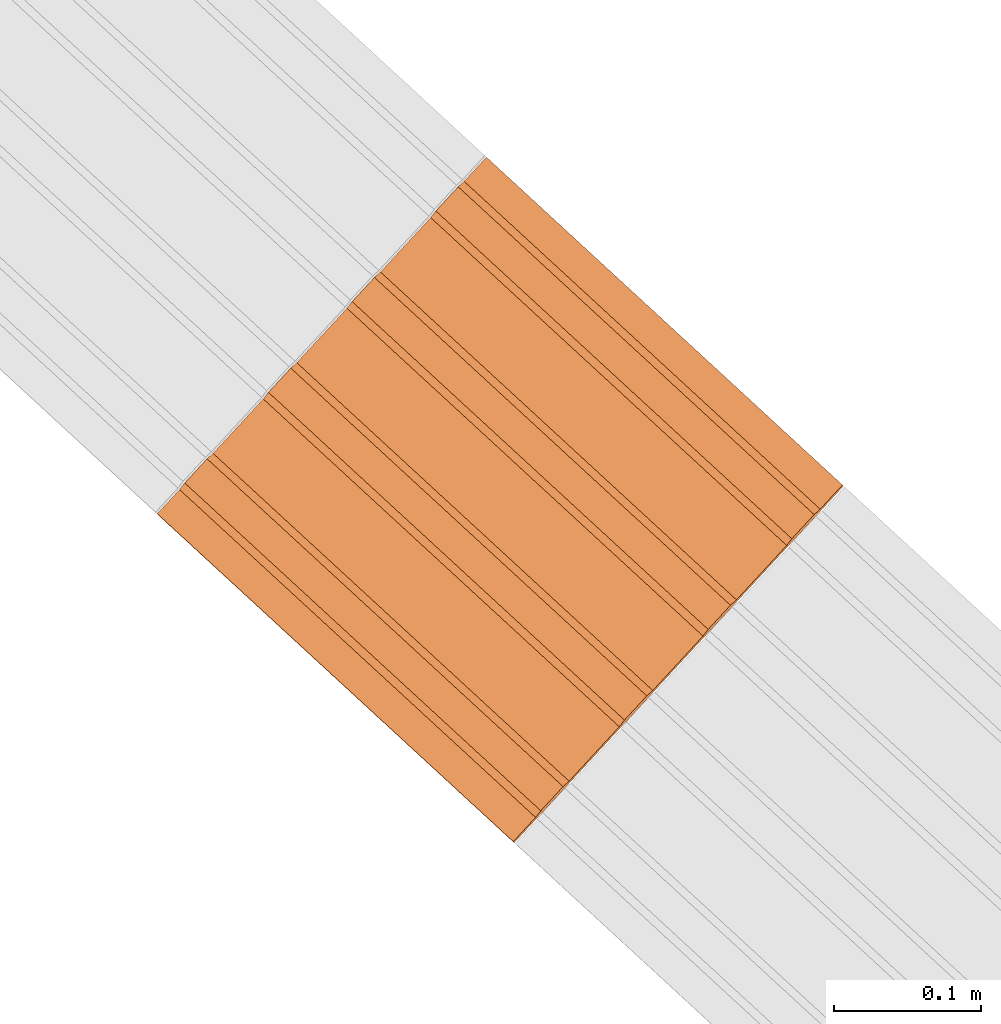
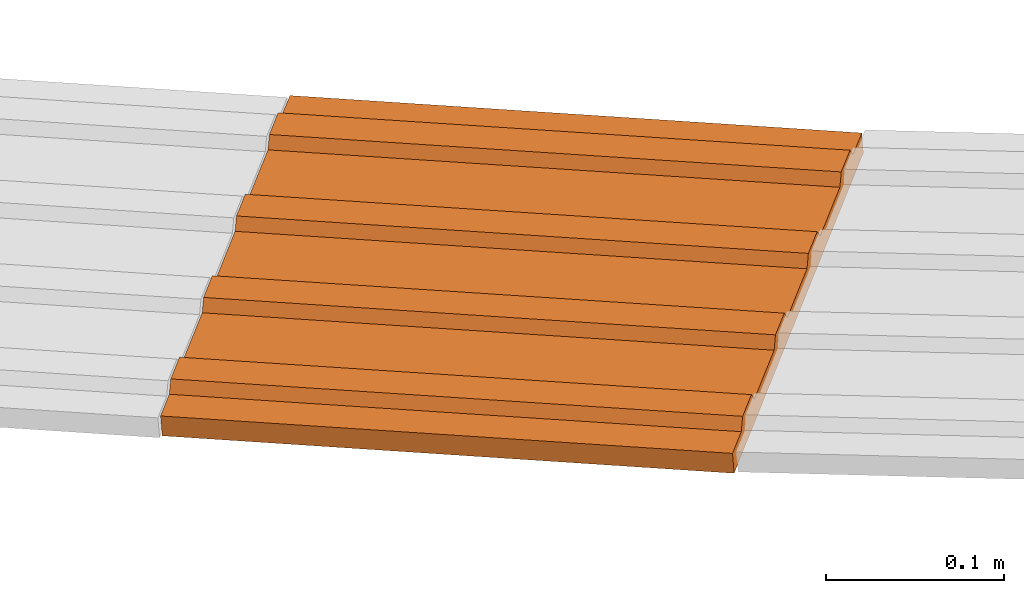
# One storey, part 167 of 237: 1 proxy.
"""IFC2X3 building model written with IfcOpenShell, lengths in millimetres."""

from ifc_helpers import new_model, entity, si_unit, converted_unit, derived_unit, money_unit, direction, frame, origin_with_axes, place, context, subcontext, project, spatial, open_shell, surface_model, source, transform, mapped, type_object, element, save


model = new_model("IFC2X3")

# Units and contexts
model_context = context("Model", 3, precision=0.01, world=origin_with_axes(), true_north=direction((0.0, 1.0)))
body_context = subcontext(model_context, "Body", "Model", "MODEL_VIEW")
ifc_project = project(units=[si_unit("LENGTHUNIT", "METRE", prefix="MILLI"), si_unit("AREAUNIT", "SQUARE_METRE"), si_unit("VOLUMEUNIT", "CUBIC_METRE"), converted_unit("PLANEANGLEUNIT", "DEGREE", entity("IfcPlaneAngleMeasure", 0.0174532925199), si_unit("PLANEANGLEUNIT", "RADIAN"), dimensions=[0, 0, 0, 0, 0, 0, 0]), money_unit("USD"), converted_unit("TIMEUNIT", "Year", entity("IfcTimeMeasure", 31556926.0), si_unit("TIMEUNIT", "SECOND"), dimensions=[0, 0, 1, 0, 0, 0, 0]), si_unit("MASSUNIT", "GRAM", prefix="KILO"), si_unit("THERMODYNAMICTEMPERATUREUNIT", "DEGREE_CELSIUS"), si_unit("LUMINOUSINTENSITYUNIT", "LUMEN"), si_unit("ENERGYUNIT", "JOULE", prefix="MEGA"), derived_unit("THERMALCONDUCTANCEUNIT", [(si_unit("POWERUNIT", "WATT"), 1), (si_unit("LENGTHUNIT", "METRE"), -1), (si_unit("THERMODYNAMICTEMPERATUREUNIT", "KELVIN"), -1)]), derived_unit("SPECIFICHEATCAPACITYUNIT", [(si_unit("ENERGYUNIT", "JOULE"), 1), (si_unit("MASSUNIT", "GRAM", prefix="KILO"), -1), (si_unit("THERMODYNAMICTEMPERATUREUNIT", "KELVIN"), -1)]), derived_unit("MASSDENSITYUNIT", [(si_unit("MASSUNIT", "GRAM", prefix="KILO"), 1), (si_unit("VOLUMEUNIT", "CUBIC_METRE"), -1)])], contexts=[model_context])

# Site, building, storey
site_placement = place(None, origin_with_axes())
site = spatial("IfcSite", under=ifc_project, at=site_placement, Name="Local", CompositionType="ELEMENT")
building_placement = place(site_placement, origin_with_axes())
building = spatial("IfcBuilding", under=site, at=building_placement, Name="Construção", CompositionType="ELEMENT")
storey_placement = place(building_placement, origin_with_axes())
storey = spatial("IfcBuildingStorey", under=building, at=storey_placement, Name="Pavimento Térreo", CompositionType="ELEMENT", Elevation=0.0)

# Proxy
building_element_proxy_type = type_object("IfcBuildingElementProxyType", Name="Piso Direcional 27", PredefinedType="NOTDEFINED")
shared_shape = source(origin_with_axes(), body_context, "Body", "SurfaceModel", [
    surface_model("IfcShellBasedSurfaceModel", [(0.240167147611, -47.3213350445, 3.1941207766), (329.311261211, -47.3213350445, -21.5488590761), (329.818362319, -41.8453159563, -14.8046303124), (0.747268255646, -41.8453159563, 9.93834954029)], [open_shell([[[0, 1, 2, 3]]])]),
    surface_model("IfcShellBasedSurfaceModel", [(328.172634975, -153.343637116, -36.6921030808), (328.604459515, 176.606102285, -30.9490206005), (329.604023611, 176.373403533, -17.6552438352), (329.574747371, 154.003929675, -18.0446053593), (330.067210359, 148.295211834, -11.4950573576), (330.037934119, 125.925737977, -11.8844188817), (329.530833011, 120.449718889, -18.6286476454), (329.464961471, 70.1184027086, -19.5047110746), (329.957424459, 64.4096848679, -12.955163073), (329.928148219, 42.0402110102, -13.3445245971), (329.421047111, 36.564191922, -20.0887533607), (329.355175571, -13.7671242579, -20.9648167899), (329.847638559, -19.4758420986, -14.4152687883), (329.818362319, -41.8453159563, -14.8046303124), (329.311261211, -47.3213350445, -21.5488590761), (329.245389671, -97.6526512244, -22.4249225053), (329.737852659, -103.361369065, -15.8753745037), (329.708576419, -125.730842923, -16.2647360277), (329.201475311, -131.206862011, -23.0089647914), (329.172199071, -153.576335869, -23.3983263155)], [open_shell([[[0, 1, 2, 3, 4, 5, 6, 7, 8, 9, 10, 11, 12, 13, 14, 15, 16, 17, 18, 19]]])]),
    surface_model("IfcShellBasedSurfaceModel", [(0.776544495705, -19.4758420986, 10.3277110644), (329.847638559, -19.4758420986, -14.4152687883), (329.355175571, -13.7671242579, -20.9648167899), (0.284081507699, -13.7671242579, 3.77816306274)], [open_shell([[[0, 1, 2, 3]]])]),
    surface_model("IfcShellBasedSurfaceModel", [(0.666758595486, -103.361369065, 8.86760534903), (329.737852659, -103.361369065, -15.8753745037), (329.245389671, -97.6526512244, -22.4249225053), (0.17429560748, -97.6526512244, 2.3180573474)], [open_shell([[[0, 1, 2, 3]]])]),
    surface_model("IfcShellBasedSurfaceModel", [(0.886330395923, 64.4096848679, 11.7878167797), (329.957424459, 64.4096848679, -12.955163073), (329.464961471, 70.1184027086, -19.5047110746), (0.393867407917, 70.1184027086, 5.23826877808)], [open_shell([[[0, 1, 2, 3]]])]),
    surface_model("IfcShellBasedSurfaceModel", [(0.34995304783, 36.564191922, 4.65422649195), (329.421047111, 36.564191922, -20.0887533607), (329.928148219, 42.0402110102, -13.3445245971), (0.857054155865, 42.0402110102, 11.3984552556)], [open_shell([[[0, 1, 2, 3]]])]),
    surface_model("IfcShellBasedSurfaceModel", [(0.130381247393, -131.206862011, 1.73401506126), (329.201475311, -131.206862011, -23.0089647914), (329.708576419, -125.730842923, -16.2647360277), (0.637482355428, -125.730842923, 8.47824382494)], [open_shell([[[0, 1, 2, 3]]])]),
    surface_model("IfcShellBasedSurfaceModel", [(0.532929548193, 176.373403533, 7.08773601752), (0.503653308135, 154.003929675, 6.69837449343), (329.574747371, 154.003929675, -18.0446053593), (329.604023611, 176.373403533, -17.6552438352)], [open_shell([[[0, 1, 2, 3]]])]),
    surface_model("IfcShellBasedSurfaceModel", [(0.459738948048, 120.449718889, 6.11433220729), (329.530833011, 120.449718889, -18.6286476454), (330.037934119, 125.925737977, -11.8844188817), (0.966840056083, 125.925737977, 12.858560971)], [open_shell([[[0, 1, 2, 3]]])]),
    surface_model("IfcShellBasedSurfaceModel", [(0.996116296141, 148.295211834, 13.2479224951), (330.067210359, 148.295211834, -11.4950573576), (329.574747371, 154.003929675, -18.0446053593), (0.503653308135, 154.003929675, 6.69837449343)], [open_shell([[[0, 1, 2, 3]]])]),
    surface_model("IfcShellBasedSurfaceModel", [(0.34995304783, 36.564191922, 4.65422649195), (0.284081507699, -13.7671242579, 3.77816306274), (329.355175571, -13.7671242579, -20.9648167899), (329.421047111, 36.564191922, -20.0887533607)], [open_shell([[[0, 1, 2, 3]]])]),
    surface_model("IfcShellBasedSurfaceModel", [(0.459738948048, 120.449718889, 6.11433220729), (0.393867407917, 70.1184027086, 5.23826877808), (329.464961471, 70.1184027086, -19.5047110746), (329.530833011, 120.449718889, -18.6286476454)], [open_shell([[[0, 1, 2, 3]]])]),
    surface_model("IfcShellBasedSurfaceModel", [(0.996116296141, 148.295211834, 13.2479224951), (0.966840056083, 125.925737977, 12.858560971), (330.037934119, 125.925737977, -11.8844188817), (330.067210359, 148.295211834, -11.4950573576)], [open_shell([[[0, 1, 2, 3]]])]),
    surface_model("IfcShellBasedSurfaceModel", [(0.459738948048, 120.449718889, 6.11433220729), (0.966840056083, 125.925737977, 12.858560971), (0.996116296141, 148.295211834, 13.2479224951), (0.503653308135, 154.003929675, 6.69837449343), (0.532929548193, 176.373403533, 7.08773601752), (-0.466634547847, 176.606102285, -6.2060407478), (-0.898459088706, -153.343637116, -11.9491232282), (0.101105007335, -153.576335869, 1.34465353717), (0.130381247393, -131.206862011, 1.73401506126), (0.637482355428, -125.730842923, 8.47824382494), (0.666758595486, -103.361369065, 8.86760534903), (0.17429560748, -97.6526512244, 2.3180573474), (0.240167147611, -47.3213350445, 3.1941207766), (0.747268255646, -41.8453159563, 9.93834954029), (0.776544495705, -19.4758420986, 10.3277110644), (0.284081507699, -13.7671242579, 3.77816306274), (0.34995304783, 36.564191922, 4.65422649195), (0.857054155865, 42.0402110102, 11.3984552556), (0.886330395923, 64.4096848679, 11.7878167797), (0.393867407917, 70.1184027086, 5.23826877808)], [open_shell([[[0, 1, 2, 3, 4, 5, 6, 7, 8, 9, 10, 11, 12, 13, 14, 15, 16, 17, 18, 19]]])]),
    surface_model("IfcShellBasedSurfaceModel", [(329.818362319, -41.8453159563, -14.8046303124), (329.847638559, -19.4758420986, -14.4152687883), (0.776544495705, -19.4758420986, 10.3277110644), (0.747268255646, -41.8453159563, 9.93834954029)], [open_shell([[[0, 1, 2, 3]]])]),
    surface_model("IfcShellBasedSurfaceModel", [(0.240167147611, -47.3213350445, 3.1941207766), (0.17429560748, -97.6526512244, 2.3180573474), (329.245389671, -97.6526512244, -22.4249225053), (329.311261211, -47.3213350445, -21.5488590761)], [open_shell([[[0, 1, 2, 3]]])]),
    surface_model("IfcShellBasedSurfaceModel", [(329.928148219, 42.0402110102, -13.3445245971), (329.957424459, 64.4096848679, -12.955163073), (0.886330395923, 64.4096848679, 11.7878167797), (0.857054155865, 42.0402110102, 11.3984552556)], [open_shell([[[0, 1, 2, 3]]])]),
    surface_model("IfcShellBasedSurfaceModel", [(329.708576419, -125.730842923, -16.2647360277), (329.737852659, -103.361369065, -15.8753745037), (0.666758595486, -103.361369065, 8.86760534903), (0.637482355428, -125.730842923, 8.47824382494)], [open_shell([[[0, 1, 2, 3]]])]),
    surface_model("IfcShellBasedSurfaceModel", [(328.604459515, 176.606102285, -30.9490206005), (-0.466634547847, 176.606102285, -6.2060407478), (0.532929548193, 176.373403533, 7.08773601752), (329.604023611, 176.373403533, -17.6552438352)], [open_shell([[[0, 1, 2, 3]]])]),
    surface_model("IfcShellBasedSurfaceModel", [(328.172634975, -153.343637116, -36.6921030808), (-0.898459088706, -153.343637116, -11.9491232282), (-0.466634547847, 176.606102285, -6.2060407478), (328.604459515, 176.606102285, -30.9490206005)], [open_shell([[[0, 1, 2, 3]]])]),
    surface_model("IfcShellBasedSurfaceModel", [(329.172199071, -153.576335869, -23.3983263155), (329.201475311, -131.206862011, -23.0089647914), (0.130381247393, -131.206862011, 1.73401506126), (0.101105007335, -153.576335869, 1.34465353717)], [open_shell([[[0, 1, 2, 3]]])]),
    surface_model("IfcShellBasedSurfaceModel", [(-0.898459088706, -153.343637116, -11.9491232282), (328.172634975, -153.343637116, -36.6921030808), (329.172199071, -153.576335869, -23.3983263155), (0.101105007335, -153.576335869, 1.34465353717)], [open_shell([[[0, 1, 2, 3]]])]),
])
proxy_placement = place(storey_placement, frame((41114.3682225, 25962.2930456, -1699.5679852), z_axis=(0.0, 0.0, 1.0), x_axis=(-0.735681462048, 0.677327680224, 0.0)))
element("IfcBuildingElementProxy", 1, at=proxy_placement, inside=storey, type_object=building_element_proxy_type, Name="Objeto-0055", context=body_context, shape_type="MappedRepresentation", body=[
    mapped(shared_shape, transform((0.0, 0.0, 0.0))),
])

save(model, "model.ifc")
